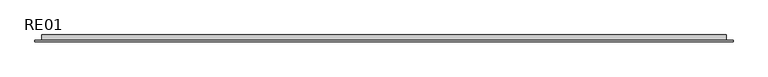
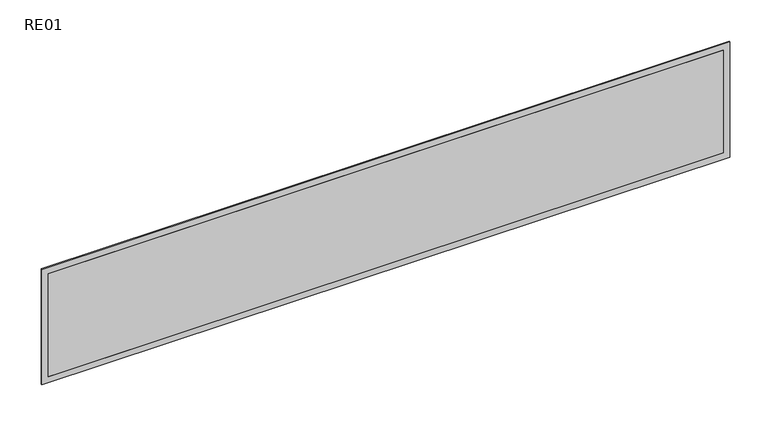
"""IFC4 building model written with IfcOpenShell, lengths in millimetres: air terminal geometry, ZYR_03.06.04.01 Reixa Paret Extracció : RE01."""

from ifc_helpers import new_model, si_unit, frame, origin, place, context, project, spatial, polyline, outline, extrude, source, transform, mapped, element, save


def re01_316c899c(model_context):
    return source(origin(), model_context, "Body", "SweptSolid", [
        extrude(outline(polyline([(512.5, 0.0), (-512.5, 0.0), (-512.5, 10.0), (512.5, 10.0), (512.5, 0.0)])), frame((0.0, 0.0, -82.5), z_axis=(0.0, 0.0, 1.0), x_axis=(1.0, 0.0, 0.0)), (0.0, 0.0, 1.0), 165.0),
        extrude(outline(polyline([(92.5, 522.5), (92.5, -522.5), (-92.5, -522.5), (-92.5, 522.5), (92.5, 522.5)]), holes=[polyline([(82.5, 512.5), (-82.5, 512.5), (-82.5, -512.5), (82.5, -512.5), (82.5, 512.5)])]), frame((0.0, 0.0, 0.0), z_axis=(0.0, 1.0, 0.0), x_axis=(0.0, 0.0, 1.0)), (0.0, 0.0, 1.0), 2.0),
    ])


if __name__ == "__main__":
    model = new_model("IFC4")
    model_context = context("Model", 3, world=origin())
    ifc_project = project(units=[si_unit("LENGTHUNIT", "METRE", prefix="MILLI")], contexts=[model_context])
    site = spatial("IfcSite", under=ifc_project)
    building = spatial("IfcBuilding", under=site)
    placement = place(None, origin())
    re01_shape = re01_316c899c(model_context)
    element("IfcAirTerminal", 1, ObjectType="ZYR_03.06.04.01 Reixa Paret Extracció : RE01", at=placement, inside=building, context=model_context, shape_type="MappedRepresentation", body=[
        mapped(re01_shape, transform((0.0, 0.0, 0.0), x_axis=(1.0, 0.0, 0.0), y_axis=(0.0, 1.0, 0.0), z_axis=(0.0, 0.0, 1.0))),
    ])
    save(model, "model.ifc")
